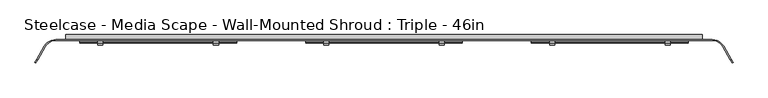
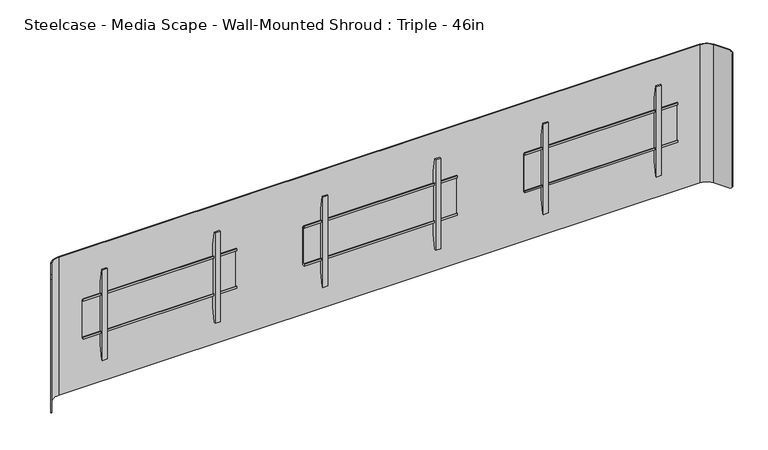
"""IFC4 building model written with IfcOpenShell, lengths in millimetres: furniture geometry, Steelcase - Media Scape - Wall-Mounted Shroud : Triple - 46in."""

import ifcopenshell
import ifcopenshell.guid

model = None  # the IFC model being written
_history = None  # IfcOwnerHistory: only IFC2X3 demands one
_inside = {}  # id of a spatial element -> (the spatial element, [elements in it])
_under = {}  # id of a project, library or spatial element -> (it, [spatial elements below it])
_declared = {}  # id of a project -> (the project, [libraries it declares])
_typed = {}  # id of a type object -> (the type object, [elements of that type])
_made_of = {}  # id of a material, layer set ... -> (it, [elements and type objects made of it])


def new_model(schema):
    """Start an empty IFC model of exactly this schema.

    Asked for "IFC4X3", IfcOpenShell would pick the latest addendum, in which some entities
    have other attributes; the version numbers below select the first issue.
    IFC2X3 requires an IfcOwnerHistory on every rooted entity: one is made here for all.
    """
    global model, _history
    if schema == "IFC4X3":
        model = ifcopenshell.file(schema_version=(4, 3, 0, 0))
    else:
        model = ifcopenshell.file(schema=schema)
    _inside.clear()
    _under.clear()
    _declared.clear()
    _typed.clear()
    _made_of.clear()
    _history = None
    if model.schema == "IFC2X3":
        org = make("IfcOrganization", Name="unknown")
        user = make(
            "IfcPersonAndOrganization",
            ThePerson=make("IfcPerson", FamilyName="unknown"),
            TheOrganization=org,
        )
        app = make(
            "IfcApplication",
            ApplicationDeveloper=org,
            Version="unknown",
            ApplicationFullName="unknown",
            ApplicationIdentifier="unknown",
        )
        _history = make(
            "IfcOwnerHistory",
            OwningUser=user,
            OwningApplication=app,
            ChangeAction="ADDED",
            CreationDate=0,
        )
    return model


def make(cls, **values):
    """One entity of the class cls with the attributes given. An attribute that is None is left unset."""
    return model.create_entity(
        cls, **{name: value for name, value in values.items() if value is not None}
    )


def rooted(cls, **values):
    """An entity with a GlobalId (a new one), such as an element, a storey or a relation."""
    return make(cls, GlobalId=ifcopenshell.guid.new(), OwnerHistory=_history, **values)


def si_unit(unit_type, name, prefix=None):
    """IfcSIUnit, for example si_unit("LENGTHUNIT", "METRE", prefix="MILLI")."""
    return make("IfcSIUnit", UnitType=unit_type, Prefix=prefix, Name=name)


def assignment(units):
    """IfcUnitAssignment: the units of a project."""
    return None if units is None else make("IfcUnitAssignment", Units=units)


def point(xyz):
    """IfcCartesianPoint."""
    return None if xyz is None else make("IfcCartesianPoint", Coordinates=xyz)


def direction(xyz):
    """IfcDirection."""
    return None if xyz is None else make("IfcDirection", DirectionRatios=xyz)


def frame(location, z_axis=None, x_axis=None):
    """IfcAxis2Placement3D, a coordinate frame: its origin and axes. An axis left out is left unset."""
    return make(
        "IfcAxis2Placement3D",
        Location=point(location),
        Axis=direction(z_axis),
        RefDirection=direction(x_axis),
    )


def origin():
    """The frame at (0, 0, 0) with its axes left unset."""
    return frame((0.0, 0.0, 0.0))


def place(relative_to, where):
    """IfcLocalPlacement: puts the frame where relative to a parent placement (None: the world)."""
    return make(
        "IfcLocalPlacement", PlacementRelTo=relative_to, RelativePlacement=where
    )


def context(
    kind, dimensions, precision=None, world=None, true_north=None, identifier=None
):
    """IfcGeometricRepresentationContext, for example the 3D "Model" context."""
    return make(
        "IfcGeometricRepresentationContext",
        ContextIdentifier=identifier,
        ContextType=kind,
        CoordinateSpaceDimension=dimensions,
        Precision=precision,
        WorldCoordinateSystem=world,
        TrueNorth=true_north,
    )


def project(units=None, contexts=None):
    """IfcProject with its units and contexts."""
    return rooted(
        "IfcProject",
        Name="project",
        RepresentationContexts=contexts,
        UnitsInContext=assignment(units),
    )


def spatial(cls, under=None, at=None, **own):
    """A site, building, storey or space (cls), placed at a placement, below another one or the project."""
    s = rooted(cls, ObjectPlacement=at, **own)
    if under is not None:
        _under.setdefault(under.id(), (under, []))[1].append(s)
    return s


def polyline(points):
    """IfcPolyline through the points."""
    return make("IfcPolyline", Points=[point(p) for p in points])


def circle_curve(where, radius):
    """IfcCircle in the frame where."""
    return make("IfcCircle", Position=where, Radius=radius)


def outline(outer, holes=None, kind="AREA"):
    """IfcArbitraryClosedProfileDef: a profile drawn as a closed curve; with holes, ...WithVoids."""
    if holes is None:
        return make("IfcArbitraryClosedProfileDef", ProfileType=kind, OuterCurve=outer)
    return make(
        "IfcArbitraryProfileDefWithVoids",
        ProfileType=kind,
        OuterCurve=outer,
        InnerCurves=holes,
    )


def extrude(swept, where, along, depth):
    """IfcExtrudedAreaSolid: the profile swept, set in the frame where, extruded along a direction by depth."""
    return make(
        "IfcExtrudedAreaSolid",
        SweptArea=swept,
        Position=where,
        ExtrudedDirection=direction(along),
        Depth=depth,
    )


def shape(context_of_items, identifier, shape_type, items):
    """IfcShapeRepresentation: the items that make up one representation, for example the "Body"."""
    return make(
        "IfcShapeRepresentation",
        ContextOfItems=context_of_items,
        RepresentationIdentifier=identifier,
        RepresentationType=shape_type,
        Items=items,
    )


def source(mapping_origin, context_of_items, identifier, shape_type, items):
    """IfcRepresentationMap: a shape defined once, which mapped items show again and again."""
    return make(
        "IfcRepresentationMap",
        MappingOrigin=mapping_origin,
        MappedRepresentation=shape(context_of_items, identifier, shape_type, items),
    )


def transform(
    local_origin,
    x_axis=None,
    y_axis=None,
    z_axis=None,
    scale=None,
    scale2=None,
    scale3=None,
    uniform=True,
):
    """IfcCartesianTransformationOperator3D, or its non-uniform kind. x_axis, y_axis, z_axis: its Axis1, 2, 3."""
    if uniform:
        return make(
            "IfcCartesianTransformationOperator3D",
            Axis1=direction(x_axis),
            Axis2=direction(y_axis),
            LocalOrigin=point(local_origin),
            Scale=scale,
            Axis3=direction(z_axis),
        )
    return make(
        "IfcCartesianTransformationOperator3DnonUniform",
        Axis1=direction(x_axis),
        Axis2=direction(y_axis),
        LocalOrigin=point(local_origin),
        Scale=scale,
        Axis3=direction(z_axis),
        Scale2=scale2,
        Scale3=scale3,
    )


def mapped(mapping_source, mapping_target):
    """IfcMappedItem: shows the shape of a source again, moved by a transform."""
    return make(
        "IfcMappedItem", MappingSource=mapping_source, MappingTarget=mapping_target
    )


def made_of(thing, what):
    """Note that an element or type object is made of a material, layer set ...; save() writes the relation."""
    if what is not None:
        _made_of.setdefault(what.id(), (what, []))[1].append(thing)
    return thing


def element(
    cls,
    number,
    at=None,
    inside=None,
    cuts=None,
    type_object=None,
    material=None,
    context=None,
    identifier="Body",
    shape_type=None,
    held_by="IfcProductDefinitionShape",
    body=None,
    shapes=None,
    **own,
):
    """One element of the class cls, such as IfcWall. Its Tag is "e" and its number.

    at: its placement. inside: the storey or other place that contains it. cuts: it is an
    opening in that element (IfcRelVoidsElement). A single representation is given by context,
    identifier, shape_type and body (its items); several are given by shapes. held_by: the class
    of the entity that holds the representations. save() writes the other relations.
    """
    e = rooted(cls, Tag="e%d" % number, ObjectPlacement=at, **own)
    if body is not None:
        shapes = [shape(context, identifier, shape_type, body)]
    if shapes is not None:
        e.Representation = make(held_by, Representations=shapes)
    if inside is not None:
        _inside.setdefault(inside.id(), (inside, []))[1].append(e)
    if cuts is not None:
        rooted(
            "IfcRelVoidsElement", RelatingBuildingElement=cuts, RelatedOpeningElement=e
        )
    if type_object is not None:
        _typed.setdefault(type_object.id(), (type_object, []))[1].append(e)
    return made_of(e, material)


def aggregate(whole, parts):
    """IfcRelAggregates: a whole, such as a stair, and the parts it consists of."""
    return rooted("IfcRelAggregates", RelatingObject=whole, RelatedObjects=parts)


def save(model, path):
    """Write the relations noted so far, then the file.

    IfcRelAggregates (storeys below a building ...), IfcRelContainedInSpatialStructure (elements
    in a storey), IfcRelDefinesByType, IfcRelAssociatesMaterial and IfcRelDeclares: one each for
    every whole, place, type object, material and project.
    """
    for whole, parts in _under.values():
        aggregate(whole, parts)
    for where, things in _inside.values():
        rooted(
            "IfcRelContainedInSpatialStructure",
            RelatedElements=things,
            RelatingStructure=where,
        )
    for kind, things in _typed.values():
        rooted("IfcRelDefinesByType", RelatedObjects=things, RelatingType=kind)
    for what, things in _made_of.values():
        rooted("IfcRelAssociatesMaterial", RelatedObjects=things, RelatingMaterial=what)
    for by, libraries in _declared.values():
        rooted("IfcRelDeclares", RelatingContext=by, RelatedDefinitions=libraries)
    model.write(path)


def plane_surface(at):
    """IfcPlane: the flat surface through the origin of the frame at, square to its z axis."""
    return make("IfcPlane", Position=at)


def cylinder_surface(at, radius):
    """IfcCylindricalSurface: all points at the distance radius from the z axis of the frame at."""
    return make("IfcCylindricalSurface", Position=at, Radius=radius)


def revolved_surface(curve, axis_point, axis_direction):
    """IfcSurfaceOfRevolution: the curve turned about the line through axis_point along axis_direction."""
    return make(
        "IfcSurfaceOfRevolution",
        SweptCurve=make("IfcArbitraryOpenProfileDef", ProfileType="CURVE", Curve=curve),
        AxisPosition=make("IfcAxis1Placement", Location=point(axis_point), Axis=direction(axis_direction)),
    )


def advanced_brep(points, edges, surfaces, faces):
    """IfcAdvancedBrep: a solid bounded by faces that lie on surfaces and meet in shared edges.

    An edge is (start, end): straight between two places in points (the first is 0);
    or (start, end, curve); or (start, end, curve, False) where it runs against its curve.
    A face is (place in surfaces, loops), or (place, loops, False) where it looks against
    its surface's normal. A loop lists edges by number (the first is 1), with a minus sign
    where the edge is run from its end to its start. The first loop is the outer one.
    """
    corners = [point(p) for p in points]
    vertices = [make("IfcVertexPoint", VertexGeometry=c) for c in corners]
    made = []
    for start, end, *more in edges:
        made.append(
            make(
                "IfcEdgeCurve",
                EdgeStart=vertices[start],
                EdgeEnd=vertices[end],
                EdgeGeometry=more[0] if more else make("IfcPolyline", Points=[corners[start], corners[end]]),
                SameSense=more[1] if len(more) > 1 else True,
            )
        )
    hull = []
    for where, loops, *sense in faces:
        bounds = []
        for j, loop in enumerate(loops):
            ring = [make("IfcOrientedEdge", EdgeElement=made[abs(k) - 1], Orientation=k > 0) for k in loop]
            bounds.append(
                make(
                    "IfcFaceOuterBound" if j == 0 else "IfcFaceBound",
                    Bound=make("IfcEdgeLoop", EdgeList=ring),
                    Orientation=True,
                )
            )
        hull.append(make("IfcAdvancedFace", Bounds=bounds, FaceSurface=surfaces[where], SameSense=sense[0] if sense else True))
    return make("IfcAdvancedBrep", Outer=make("IfcClosedShell", CfsFaces=hull))


def steelcase_media_scape_wall_mounted_shroud_triple_46in_d5bfb77c(model_context):
    return source(origin(), model_context, "Body", "SolidModel", [
        extrude(outline(polyline([(-42.4942785, 1326.5504726), (-42.4942785, 1338.5645649), (-39.8272175, 1338.5645649), (-39.8272175, 1329.217461), (-29.9720009, 1329.217461), (-29.9720009, 1114.8922438), (-42.3164551, 1114.8922438), (-42.3164551, 1125.8142515), (-39.649394, 1125.8142515), (-39.649394, 1117.557052), (-32.6531824, 1117.557052), (-32.6531824, 1326.5504726), (-42.4942785, 1326.5504726)])), frame((765.175, 0.0, 0.0), z_axis=(1.0, 0.0, 0.0), x_axis=(0.0, 1.0, 0.0)), (0.0, 0.0, 1.0), 812.8),
        extrude(outline(polyline([(-32.6531824, 1397.4971148), (-32.6531824, 1045.6825607), (-46.5049349, 968.0546949), (-53.3399828, 968.0546949), (-53.3399828, 1476.0547192), (-46.5050076, 1476.0547192), (-32.6531824, 1397.4971148)])), frame((858.776426, 0.0, 0.0), z_axis=(1.0, 0.0, 0.0), x_axis=(0.0, 1.0, 0.0)), (0.0, 0.0, 1.0), 26.1592872),
        extrude(outline(polyline([(-32.6531824, 1397.4971148), (-32.6531824, 1045.6825607), (-46.5049349, 968.0546949), (-53.3399828, 968.0546949), (-53.3399828, 1476.0547192), (-46.5050076, 1476.0547192), (-32.6531824, 1397.4971148)])), frame((1458.2142868, 0.0, 0.0), z_axis=(1.0, 0.0, 0.0), x_axis=(0.0, 1.0, 0.0)), (0.0, 0.0, 1.0), 26.1592872),
        extrude(outline(polyline([(-42.4942785, 1326.5504726), (-42.4942785, 1338.5645649), (-39.8272175, 1338.5645649), (-39.8272175, 1329.217461), (-29.9720009, 1329.217461), (-29.9720009, 1114.8922438), (-42.3164551, 1114.8922438), (-42.3164551, 1125.8142515), (-39.649394, 1125.8142515), (-39.649394, 1117.557052), (-32.6531824, 1117.557052), (-32.6531824, 1326.5504726), (-42.4942785, 1326.5504726)])), frame((-1577.975, 0.0, 0.0), z_axis=(1.0, 0.0, 0.0), x_axis=(0.0, 1.0, 0.0)), (0.0, 0.0, 1.0), 812.8),
        extrude(outline(polyline([(-32.6531824, 1397.4971148), (-32.6531824, 1045.6825607), (-46.5049349, 968.0546949), (-53.3399828, 968.0546949), (-53.3399828, 1476.0547192), (-46.5050076, 1476.0547192), (-32.6531824, 1397.4971148)])), frame((-884.9357132, 0.0, 0.0), z_axis=(1.0, 0.0, 0.0), x_axis=(0.0, 1.0, 0.0)), (0.0, 0.0, 1.0), 26.1592872),
        extrude(outline(polyline([(-32.6531824, 1397.4971148), (-32.6531824, 1045.6825607), (-46.5049349, 968.0546949), (-53.3399828, 968.0546949), (-53.3399828, 1476.0547192), (-46.5050076, 1476.0547192), (-32.6531824, 1397.4971148)])), frame((-1484.373574, 0.0, 0.0), z_axis=(1.0, 0.0, 0.0), x_axis=(0.0, 1.0, 0.0)), (0.0, 0.0, 1.0), 26.1592872),
        extrude(outline(polyline([(-42.4942785, 1326.5504726), (-42.4942785, 1338.5645649), (-39.8272175, 1338.5645649), (-39.8272175, 1329.217461), (-29.9720009, 1329.217461), (-29.9720009, 1114.8922438), (-42.3164551, 1114.8922438), (-42.3164551, 1125.8142515), (-39.649394, 1125.8142515), (-39.649394, 1117.557052), (-32.6531824, 1117.557052), (-32.6531824, 1326.5504726), (-42.4942785, 1326.5504726)])), frame((-406.4, 0.0, 0.0), z_axis=(1.0, 0.0, 0.0), x_axis=(0.0, 1.0, 0.0)), (0.0, 0.0, 1.0), 812.8),
        extrude(outline(polyline([(-32.6531824, 1397.4971148), (-32.6531824, 1045.6825607), (-46.5049349, 968.0546949), (-53.3399828, 968.0546949), (-53.3399828, 1476.0547192), (-46.5050076, 1476.0547192), (-32.6531824, 1397.4971148)])), frame((286.6392868, 0.0, 0.0), z_axis=(1.0, 0.0, 0.0), x_axis=(0.0, 1.0, 0.0)), (0.0, 0.0, 1.0), 26.1592872),
        extrude(outline(polyline([(-32.6531824, 1397.4971148), (-32.6531824, 1045.6825607), (-46.5049349, 968.0546949), (-53.3399828, 968.0546949), (-53.3399828, 1476.0547192), (-46.5050076, 1476.0547192), (-32.6531824, 1397.4971148)])), frame((-312.798574, 0.0, 0.0), z_axis=(1.0, 0.0, 0.0), x_axis=(0.0, 1.0, 0.0)), (0.0, 0.0, 1.0), 26.1592872),
        advanced_brep(
        [(-1757.8086135, -61.722, 1610.614), (-1702.816002, -29.9720009, 1610.614), (1702.816, -29.9720009, 1610.614), (1757.8086135, -61.722, 1610.614), (1797.929586, -131.2135628, 1610.614), (1801.8890541, -128.9275628, 1610.614), (1761.7680817, -59.436, 1610.614), (1702.816002, -25.4, 1610.614), (-1702.816, -25.4, 1610.614), (-1761.7680817, -59.436, 1610.614), (-1801.8921659, -128.9329524, 1610.614), (-1797.9326977, -131.2189524, 1610.614), (-1761.7680817, -59.436, 835.914), (-1702.816002, -25.4, 835.914), (1702.816, -25.4, 835.914), (1761.7680817, -59.436, 835.914), (1801.9406629, -129.0169518, 835.914), (1797.9811948, -131.3029518, 835.914), (1757.8086135, -61.722, 835.914), (1702.816002, -29.9720009, 835.914), (-1702.816, -29.9720009, 835.914), (-1757.8086135, -61.722, 835.914), (-1797.9954014, -131.3275584, 835.914), (-1801.9548695, -129.0415584, 835.914), (-1811.4590632, -145.5033047, 849.5242766), (-1811.4590632, -145.5033047, 1596.6227735), (-1807.4995951, -147.7893047, 1596.6227735), (-1807.4995951, -147.7893047, 849.5242766), (1807.4770866, -147.7503189, 849.4756893), (1807.4770866, -147.7503189, 1596.7433849), (1811.4365547, -145.4643189, 1596.7433849), (1811.4365547, -145.4643189, 849.4756893)],
        [
            (0, 1, circle_curve(frame((-1702.816002, -93.4719991, 1610.614), z_axis=(0.0, 0.0, -1.0), x_axis=(0.0, 1.0, 0.0)), 63.4999981)),
            (1, 2),
            (2, 3, circle_curve(frame((1702.816002, -93.4719991, 1610.614), z_axis=(0.0, 0.0, -1.0), x_axis=(0.0, 1.0, 0.0)), 63.4999981)),
            (3, 4),
            (4, 5),
            (5, 6),
            (6, 7, circle_curve(frame((1702.8160004, -93.472, 1610.614), z_axis=(0.0, 0.0, 1.0), x_axis=(0.0, 1.0, 0.0)), 68.072)),
            (7, 8),
            (8, 9, circle_curve(frame((-1702.8160004, -93.472, 1610.614), z_axis=(0.0, 0.0, 1.0), x_axis=(0.0, 1.0, 0.0)), 68.072)),
            (9, 10),
            (10, 11),
            (11, 0),
            (12, 13, circle_curve(frame((-1702.8160004, -93.472, 835.914), z_axis=(0.0, 0.0, -1.0), x_axis=(0.0, 1.0, 0.0)), 68.072)),
            (13, 14),
            (14, 15, circle_curve(frame((1702.8160004, -93.472, 835.914), z_axis=(0.0, 0.0, -1.0), x_axis=(0.0, 1.0, 0.0)), 68.072)),
            (15, 16),
            (16, 17),
            (17, 18),
            (18, 19, circle_curve(frame((1702.816002, -93.4719991, 835.914), z_axis=(0.0, 0.0, 1.0), x_axis=(0.0, 1.0, 0.0)), 63.4999981)),
            (19, 20),
            (20, 21, circle_curve(frame((-1702.816002, -93.4719991, 835.914), z_axis=(0.0, 0.0, 1.0), x_axis=(0.0, 1.0, 0.0)), 63.4999981)),
            (21, 22),
            (22, 23),
            (23, 12),
            (0, 21),
            (20, 1),
            (8, 13),
            (12, 9),
            (23, 24, circle_curve(frame((-1801.9548695, -129.0415584, 855.9928872), z_axis=(-0.8660254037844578, 0.49999999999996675, 0.0), x_axis=(-0.49999999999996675, -0.8660254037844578, 0.0)), 20.0788872)),
            (24, 25),
            (25, 10, circle_curve(frame((-1801.8921659, -128.9329524, 1590.5351128), z_axis=(-0.8660254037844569, 0.49999999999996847, 0.0), x_axis=(-0.49999999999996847, -0.8660254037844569, 0.0)), 20.0788872)),
            (26, 25),
            (24, 27),
            (27, 26),
            (11, 26, circle_curve(frame((-1797.9326977, -131.2189524, 1590.5351128), z_axis=(0.8660254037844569, -0.49999999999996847, 0.0), x_axis=(-0.49999999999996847, -0.8660254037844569, 0.0)), 20.0788872)),
            (27, 22, circle_curve(frame((-1797.9954014, -131.3275584, 855.9928872), z_axis=(0.8660254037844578, -0.49999999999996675, 0.0), x_axis=(-0.49999999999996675, -0.8660254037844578, 0.0)), 20.0788872)),
            (7, 14),
            (19, 2),
            (3, 18),
            (17, 28, circle_curve(frame((1797.9811948, -131.3029518, 855.9928872), z_axis=(-0.8660254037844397, -0.49999999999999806, 0.0), x_axis=(0.49999999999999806, -0.8660254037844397, 0.0)), 20.0788872)),
            (28, 29),
            (29, 4, circle_curve(frame((1797.929586, -131.2135628, 1590.5351128), z_axis=(-0.8660254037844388, -0.4999999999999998, 0.0), x_axis=(0.4999999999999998, -0.8660254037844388, 0.0)), 20.0788872)),
            (30, 29),
            (28, 31),
            (31, 30),
            (15, 6),
            (5, 30, circle_curve(frame((1801.8890541, -128.9275628, 1590.5351128), z_axis=(0.8660254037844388, 0.4999999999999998, 0.0), x_axis=(0.4999999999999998, -0.8660254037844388, 0.0)), 20.0788872)),
            (31, 16, circle_curve(frame((1801.9406629, -129.0169518, 855.9928872), z_axis=(0.8660254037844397, 0.49999999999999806, 0.0), x_axis=(0.49999999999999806, -0.8660254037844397, 0.0)), 20.0788872)),
        ],
        [
            plane_surface(frame((-1702.816002, -29.9720009, 1610.614), z_axis=(0.0, 0.0, 1.0), x_axis=(1.0, 0.0, 0.0))),
            plane_surface(frame((-1702.816002, -29.9720009, 835.914), z_axis=(0.0, 0.0, -1.0), x_axis=(-1.0, 0.0, 0.0))),
            revolved_surface(polyline([(-1702.816002, -29.972001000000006, 835.914), (-1702.816002, -29.972001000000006, 1610.614)]), (-1702.816002, -93.4719991, 835.914), (0.0, 0.0, -1.0)),
            cylinder_surface(frame((-1702.8160004, -93.472, 835.914), z_axis=(0.0, 0.0, 1.0), x_axis=(0.0, 1.0, 0.0)), 68.072),
            plane_surface(frame((-1761.7680817, -59.436, 1610.614), z_axis=(-0.866025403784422, 0.5000000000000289, 0.0), x_axis=(0.0, 0.0, -1.0))),
            plane_surface(frame((-1811.4590632, -145.5033047, 1610.614), z_axis=(-0.5000000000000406, -0.8660254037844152, 0.0), x_axis=(0.0, 0.0, -1.0))),
            plane_surface(frame((-1807.4995951, -147.7893047, 1610.614), z_axis=(0.8660254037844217, -0.5000000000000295, 0.0), x_axis=(0.0, 0.0, -1.0))),
            plane_surface(frame((1702.816, -25.4, 1610.614), z_axis=(0.0, 1.0, 0.0), x_axis=(0.0, 0.0, -1.0))),
            plane_surface(frame((-1702.816, -29.9720009, 1610.614), z_axis=(0.0, -1.0, 0.0), x_axis=(0.0, 0.0, -1.0))),
            plane_surface(frame((1757.8086135, -61.722, 1610.614), z_axis=(-0.8660254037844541, -0.4999999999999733, 0.0), x_axis=(0.0, 0.0, -1.0))),
            plane_surface(frame((1807.4770866, -147.7503189, 1610.614), z_axis=(0.4999999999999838, -0.866025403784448, 0.0), x_axis=(0.0, 0.0, -1.0))),
            plane_surface(frame((1811.4365547, -145.4643189, 1610.614), z_axis=(0.8660254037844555, 0.49999999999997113, 0.0), x_axis=(0.0, 0.0, -1.0))),
            cylinder_surface(frame((1702.8160004, -93.472, 835.914), z_axis=(0.0, 0.0, 1.0), x_axis=(0.0, 1.0, 0.0)), 68.072),
            revolved_surface(polyline([(1702.816002, -29.972001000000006, 835.914), (1702.816002, -29.972001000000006, 1610.614)]), (1702.816002, -93.4719991, 835.914), (0.0, 0.0, -1.0)),
            cylinder_surface(frame((-1797.9326977, -131.2189524, 1590.5351128), z_axis=(0.8660254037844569, -0.49999999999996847, 0.0), x_axis=(-0.49999999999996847, -0.8660254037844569, 0.0)), 20.0788872),
            cylinder_surface(frame((-1797.9954014, -131.3275584, 855.9928872), z_axis=(0.8660254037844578, -0.49999999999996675, 0.0), x_axis=(-0.49999999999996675, -0.8660254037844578, 0.0)), 20.0788872),
            cylinder_surface(frame((1813.0364297, -122.4916225, 1590.5351128), z_axis=(0.8660254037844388, 0.4999999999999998, 0.0), x_axis=(0.4999999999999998, -0.8660254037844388, 0.0)), 20.0788872),
            cylinder_surface(frame((1810.2289695, -124.2316958, 855.9928872), z_axis=(0.8660254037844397, 0.49999999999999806, 0.0), x_axis=(0.49999999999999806, -0.8660254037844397, 0.0)), 20.0788872),
        ],
        [
            (0, [[1, 2, 3, 4, 5, 6, 7, 8, 9, 10, 11, 12]]),
            (1, [[13, 14, 15, 16, 17, 18, 19, 20, 21, 22, 23, 24]]),
            (2, [[-1, 25, -21, 26]]),
            (3, [[-9, 27, -13, 28]]),
            (4, [[-28, -24, 29, 30, 31, -10]]),
            (5, [[32, -30, 33, 34]]),
            (6, [[-25, -12, 35, -34, 36, -22]]),
            (7, [[-8, 37, -14, -27]]),
            (8, [[-2, -26, -20, 38]]),
            (9, [[39, -18, 40, 41, 42, -4]]),
            (10, [[43, -41, 44, 45]]),
            (11, [[46, -6, 47, -45, 48, -16]]),
            (12, [[-7, -46, -15, -37]]),
            (13, [[-3, -38, -19, -39]]),
            (14, [[-11, -31, -32, -35]]),
            (15, [[-23, -36, -33, -29]]),
            (16, [[-5, -42, -43, -47]]),
            (17, [[-17, -48, -44, -40]]),
        ],
    ),
        extrude(outline(polyline([(912.1648167, 1587.4999879), (912.1648167, 1651.0), (1534.414, 1651.0), (1534.414, -1651.0), (912.1648167, -1651.0), (912.1648167, -1588.4933465), (1470.9139516, -1588.4933465), (1470.9139516, 1587.4999879), (912.1648167, 1587.4999879)])), frame((0.0, -25.4, 0.0), z_axis=(0.0, 1.0, 0.0), x_axis=(0.0, 0.0, 1.0)), (0.0, 0.0, 1.0), 25.4),
    ])


if __name__ == "__main__":
    model = new_model("IFC4")
    model_context = context("Model", 3, world=origin())
    ifc_project = project(units=[si_unit("LENGTHUNIT", "METRE", prefix="MILLI")], contexts=[model_context])
    site = spatial("IfcSite", under=ifc_project)
    building = spatial("IfcBuilding", under=site)
    placement = place(None, origin())
    steelcase_media_scape_wall_mounted_shroud_triple_46in_shape = steelcase_media_scape_wall_mounted_shroud_triple_46in_d5bfb77c(model_context)
    element("IfcFurniture", 1, ObjectType="Steelcase - Media Scape - Wall-Mounted Shroud : Triple - 46in", at=placement, inside=building, context=model_context, shape_type="MappedRepresentation", body=[
        mapped(steelcase_media_scape_wall_mounted_shroud_triple_46in_shape, transform((0.0, 0.0, 0.0), x_axis=(1.0, 0.0, 0.0), y_axis=(0.0, 1.0, 0.0), z_axis=(0.0, 0.0, 1.0))),
    ])
    save(model, "model.ifc")
